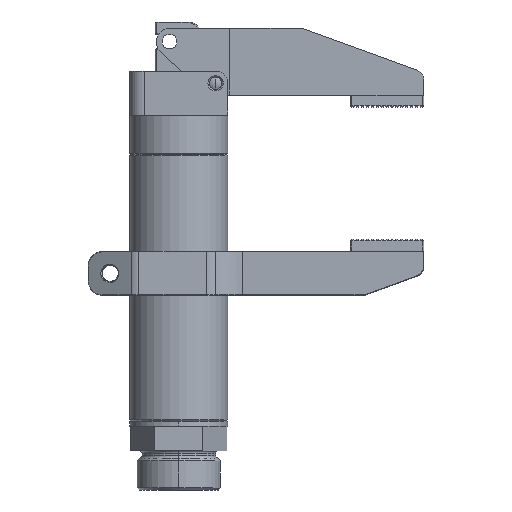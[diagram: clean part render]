
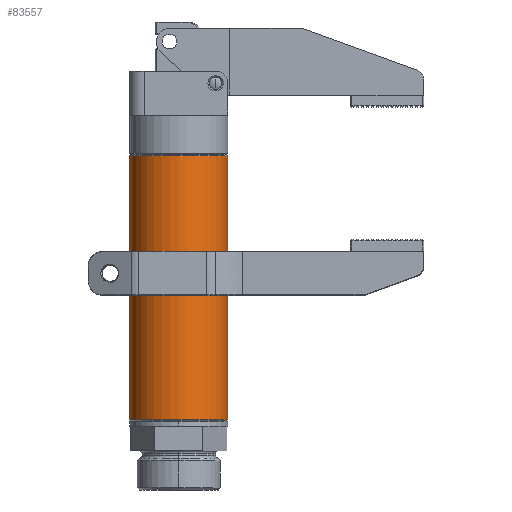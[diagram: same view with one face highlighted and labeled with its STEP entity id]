
A CAD part, front view. The second image highlights one B-rep face of the part: STEP entity #83557.
In plain terms, the highlighted cylindrical face has radius 10 mm (diameter 20 mm), a partial arc.
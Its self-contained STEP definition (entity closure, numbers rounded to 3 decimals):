
#3841 = VERTEX_POINT ( 'NONE', #148446 ) ;
#5676 = DIRECTION ( 'NONE',  ( 0., 0., 1. ) ) ;
#6382 = FACE_OUTER_BOUND ( 'NONE', #61757, .T. ) ;
#8855 = CARTESIAN_POINT ( 'NONE',  ( 4.427, 69.8, -51.275 ) ) ;
#11094 = VECTOR ( 'NONE', #114827, 1000. ) ;
#14636 = VERTEX_POINT ( 'NONE', #16476 ) ;
#15093 = ORIENTED_EDGE ( 'NONE', *, *, #69843, .T. ) ;
#15170 = LINE ( 'NONE', #101937, #11094 ) ;
#16476 = CARTESIAN_POINT ( 'NONE',  ( 4.427, 69.8, 2.625 ) ) ;
#18111 = DIRECTION ( 'NONE',  ( 0., 0., -1. ) ) ;
#24826 = LINE ( 'NONE', #69012, #89512 ) ;
#26022 = CARTESIAN_POINT ( 'NONE',  ( -15.573, 69.8, -51.275 ) ) ;
#33520 = CARTESIAN_POINT ( 'NONE',  ( -5.573, 69.8, -51.275 ) ) ;
#35278 = CIRCLE ( 'NONE', #69817, 10. ) ;
#35314 = EDGE_CURVE ( 'NONE', #99653, #53234, #24826, .T. ) ;
#39045 = CARTESIAN_POINT ( 'NONE',  ( -15.573, 69.8, 2.625 ) ) ;
#46475 = DIRECTION ( 'NONE',  ( -1., 0., 0. ) ) ;
#48598 = EDGE_CURVE ( 'NONE', #53234, #3841, #53784, .T. ) ;
#50242 = EDGE_CURVE ( 'NONE', #14636, #99653, #35278, .T. ) ;
#53234 = VERTEX_POINT ( 'NONE', #26022 ) ;
#53784 = CIRCLE ( 'NONE', #102951, 10. ) ;
#54407 = VERTEX_POINT ( 'NONE', #8855 ) ;
#61757 = EDGE_LOOP ( 'NONE', ( #103185, #82739, #166393, #15093, #71607 ) ) ;
#69012 = CARTESIAN_POINT ( 'NONE',  ( -15.573, 69.8, 2.925 ) ) ;
#69447 = CARTESIAN_POINT ( 'NONE',  ( -5.573, 69.8, 2.625 ) ) ;
#69817 = AXIS2_PLACEMENT_3D ( 'NONE', #69447, #159628, #82418 ) ;
#69843 = EDGE_CURVE ( 'NONE', #3841, #54407, #103541, .T. ) ;
#71607 = ORIENTED_EDGE ( 'NONE', *, *, #125580, .F. ) ;
#78366 = AXIS2_PLACEMENT_3D ( 'NONE', #120619, #120077, #95242 ) ;
#82418 = DIRECTION ( 'NONE',  ( 1., 0., 0. ) ) ;
#82739 = ORIENTED_EDGE ( 'NONE', *, *, #35314, .T. ) ;
#83053 = CARTESIAN_POINT ( 'NONE',  ( -5.573, 69.8, -51.275 ) ) ;
#83557 = ADVANCED_FACE ( 'NONE', ( #6382 ), #93212, .T. ) ;
#89512 = VECTOR ( 'NONE', #18111, 1000. ) ;
#93212 = CYLINDRICAL_SURFACE ( 'NONE', #78366, 10. ) ;
#95242 = DIRECTION ( 'NONE',  ( 1., 0., 0. ) ) ;
#95966 = DIRECTION ( 'NONE',  ( -1., 0., 0. ) ) ;
#99653 = VERTEX_POINT ( 'NONE', #39045 ) ;
#101937 = CARTESIAN_POINT ( 'NONE',  ( 4.427, 69.8, 2.925 ) ) ;
#102951 = AXIS2_PLACEMENT_3D ( 'NONE', #83053, #5676, #95966 ) ;
#103185 = ORIENTED_EDGE ( 'NONE', *, *, #50242, .T. ) ;
#103541 = CIRCLE ( 'NONE', #128281, 10. ) ;
#114827 = DIRECTION ( 'NONE',  ( 0., 0., -1. ) ) ;
#120077 = DIRECTION ( 'NONE',  ( 0., 0., -1. ) ) ;
#120619 = CARTESIAN_POINT ( 'NONE',  ( -5.573, 69.8, 2.925 ) ) ;
#123756 = DIRECTION ( 'NONE',  ( 0., 0., 1. ) ) ;
#125580 = EDGE_CURVE ( 'NONE', #14636, #54407, #15170, .T. ) ;
#128281 = AXIS2_PLACEMENT_3D ( 'NONE', #33520, #123756, #46475 ) ;
#148446 = CARTESIAN_POINT ( 'NONE',  ( -5.573, 59.8, -51.275 ) ) ;
#159628 = DIRECTION ( 'NONE',  ( 0., 0., -1. ) ) ;
#166393 = ORIENTED_EDGE ( 'NONE', *, *, #48598, .T. ) ;
